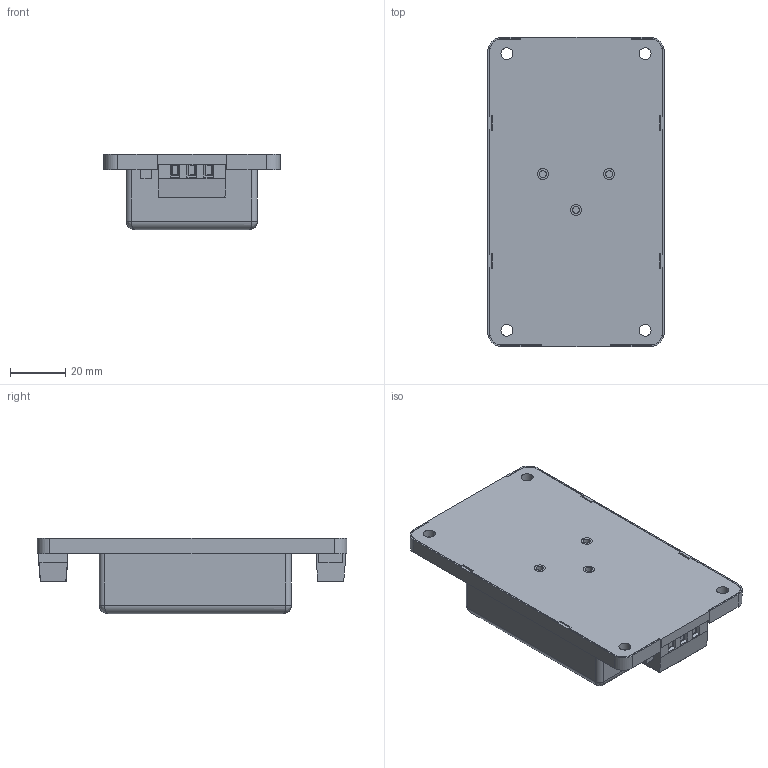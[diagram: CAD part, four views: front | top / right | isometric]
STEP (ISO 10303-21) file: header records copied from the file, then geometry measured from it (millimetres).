
FILE_DESCRIPTION((''),'2;1');
FILE_NAME('AKC-A2_ASM','2016-02-01T',('arch'),(''),'PRO/ENGINEER BY PARAMETRIC TECHNOLOGY CORPORATION, 2008380','PRO/ENGINEER BY PARAMETRIC TECHNOLOGY CORPORATION, 2008380','');
FILE_SCHEMA(('AUTOMOTIVE_DESIGN { 1 2 10303 214 0 1 1 1 }'));
Length unit declared in the file: millimetre
Products named in the file (23): PRT0001; PRT0002; PRT0003; PRT0004; PRT0005; PRT0006; PRT0007; PRT0008; PRT0009; PRT0010; ASM0004_ASM_ASM; PRT0011; PRT0012; PRT0013; PRT0014; ASM0005_ASM_ASM; ASM0003_ASM_ASM; ASM0002_ASM_ASM; AKC_3; ASM0001_ASM_ASM; AKC-A2_ASM_ASM; FCJ1; AKC-A2_ASM
Assembly tree (25 placements, depth 7):
  AKC-A2_ASM
    AKC-A2_ASM_ASM
      ASM0001_ASM_ASM
        ASM0002_ASM_ASM
          ASM0003_ASM_ASM
            PRT0001
            PRT0002
            PRT0003  x3
            PRT0004
            ASM0004_ASM_ASM
              PRT0005
              PRT0006
              PRT0007
              PRT0008
              PRT0009
              PRT0010
            ASM0005_ASM_ASM
              PRT0011
              PRT0012
              PRT0013
              PRT0014
        AKC_3
    FCJ1  x2
Bounding box: 63.66 x 111.9 x 27.2 mm (x, y, z)
Volume: 101805.7 mm3; surface area: 48890.9 mm2
Topology: 19 solids, 19 shells, 698 faces, 1680 edges, 1068 vertices
Faces by surface type: plane 482, cylinder 196, sphere 16, bspline 4
Entity records: 25511 total; most frequent: CARTESIAN_POINT 4080, DIRECTION 3370, ORIENTED_EDGE 3184, EDGE_CURVE 1592, PRESENTATION_STYLE_ASSIGNMENT 1552, STYLED_ITEM 1552, CURVE_STYLE 1544, AXIS2_PLACEMENT_3D 1139
